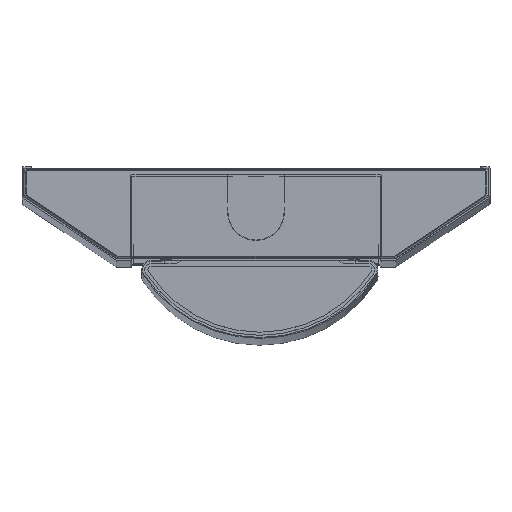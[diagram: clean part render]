
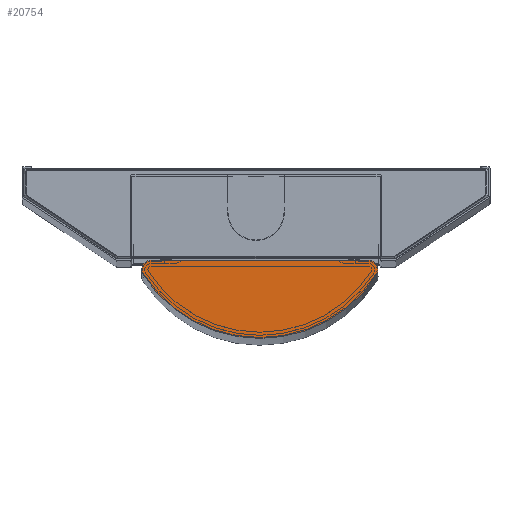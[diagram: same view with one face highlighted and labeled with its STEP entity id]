
A CAD part, top view. The second image highlights one B-rep face of the part: STEP entity #20754.
In plain terms, the highlighted planar face has unit normal (0, 0, 1).
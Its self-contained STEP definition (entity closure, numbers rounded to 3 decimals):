
#601 = AXIS2_PLACEMENT_3D ( 'NONE', #12258, #9745, #7204 ) ;
#1779 = CARTESIAN_POINT ( 'NONE',  ( -34.871, -3., 5. ) ) ;
#2809 = FACE_OUTER_BOUND ( 'NONE', #11625, .T. ) ;
#3082 = VECTOR ( 'NONE', #20705, 1000. ) ;
#3275 = LINE ( 'NONE', #19202, #3082 ) ;
#3455 = AXIS2_PLACEMENT_3D ( 'NONE', #14435, #16392, #13836 ) ;
#4744 = EDGE_CURVE ( 'NONE', #7108, #10316, #3275, .T. ) ;
#5047 = AXIS2_PLACEMENT_3D ( 'NONE', #22699, #12509, #10007 ) ;
#5055 = EDGE_CURVE ( 'NONE', #10316, #19553, #9613, .T. ) ;
#6208 = DIRECTION ( 'NONE',  ( -1., 0., 0. ) ) ;
#6703 = ORIENTED_EDGE ( 'NONE', *, *, #5055, .T. ) ;
#7108 = VERTEX_POINT ( 'NONE', #14430 ) ;
#7204 = DIRECTION ( 'NONE',  ( 1., 0., 0. ) ) ;
#7992 = ORIENTED_EDGE ( 'NONE', *, *, #23709, .T. ) ;
#8481 = VERTEX_POINT ( 'NONE', #13092 ) ;
#8746 = DIRECTION ( 'NONE',  ( 0., 0., 1. ) ) ;
#8956 = CARTESIAN_POINT ( 'NONE',  ( -37.871, -3., 5. ) ) ;
#9613 = CIRCLE ( 'NONE', #18775, 3. ) ;
#9639 = CIRCLE ( 'NONE', #21779, 3. ) ;
#9745 = DIRECTION ( 'NONE',  ( 0., 0., 1. ) ) ;
#10007 = DIRECTION ( 'NONE',  ( -1., 0., 0. ) ) ;
#10235 = CARTESIAN_POINT ( 'NONE',  ( -34.871, 0., 5. ) ) ;
#10316 = VERTEX_POINT ( 'NONE', #10235 ) ;
#10929 = PLANE ( 'NONE',  #601 ) ;
#11625 = EDGE_LOOP ( 'NONE', ( #6703, #7992, #12753, #19150, #21001 ) ) ;
#12014 = CARTESIAN_POINT ( 'NONE',  ( -37.392, -4.627, 5. ) ) ;
#12258 = CARTESIAN_POINT ( 'NONE',  ( 34.871, -3., 5. ) ) ;
#12509 = DIRECTION ( 'NONE',  ( 0., 0., 1. ) ) ;
#12574 = CIRCLE ( 'NONE', #3455, 3. ) ;
#12753 = ORIENTED_EDGE ( 'NONE', *, *, #18136, .T. ) ;
#13092 = CARTESIAN_POINT ( 'NONE',  ( 37.392, -4.627, 5. ) ) ;
#13836 = DIRECTION ( 'NONE',  ( -1., 0., 0. ) ) ;
#14430 = CARTESIAN_POINT ( 'NONE',  ( 34.871, 0., 5. ) ) ;
#14435 = CARTESIAN_POINT ( 'NONE',  ( 34.871, -3., 5. ) ) ;
#16392 = DIRECTION ( 'NONE',  ( 0., 0., 1. ) ) ;
#17948 = DIRECTION ( 'NONE',  ( -1., 0., 0. ) ) ;
#17992 = DIRECTION ( 'NONE',  ( 0., 0., 1. ) ) ;
#18112 = CARTESIAN_POINT ( 'NONE',  ( -34.871, -3., 5. ) ) ;
#18136 = EDGE_CURVE ( 'NONE', #20205, #8481, #20211, .T. ) ;
#18505 = EDGE_CURVE ( 'NONE', #8481, #7108, #12574, .T. ) ;
#18775 = AXIS2_PLACEMENT_3D ( 'NONE', #18112, #17992, #17948 ) ;
#19150 = ORIENTED_EDGE ( 'NONE', *, *, #18505, .T. ) ;
#19202 = CARTESIAN_POINT ( 'NONE',  ( 34.871, 0., 5. ) ) ;
#19553 = VERTEX_POINT ( 'NONE', #8956 ) ;
#20205 = VERTEX_POINT ( 'NONE', #12014 ) ;
#20211 = CIRCLE ( 'NONE', #5047, 44.5 ) ;
#20705 = DIRECTION ( 'NONE',  ( -1., 0., 0. ) ) ;
#20754 = ADVANCED_FACE ( 'NONE', ( #2809 ), #10929, .T. ) ;
#21001 = ORIENTED_EDGE ( 'NONE', *, *, #4744, .T. ) ;
#21779 = AXIS2_PLACEMENT_3D ( 'NONE', #1779, #8746, #6208 ) ;
#22699 = CARTESIAN_POINT ( 'NONE',  ( 0., 19.5, 5. ) ) ;
#23709 = EDGE_CURVE ( 'NONE', #19553, #20205, #9639, .T. ) ;
